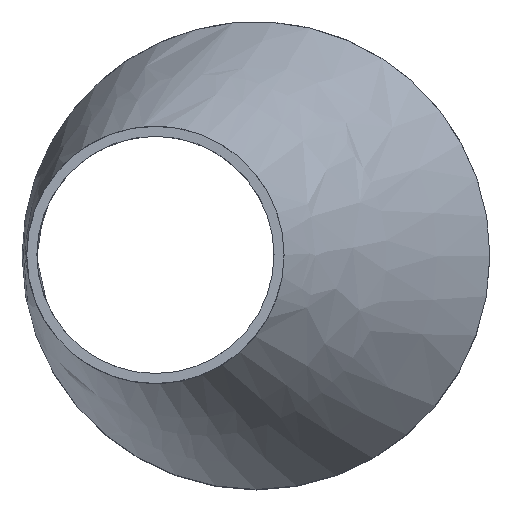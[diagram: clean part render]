
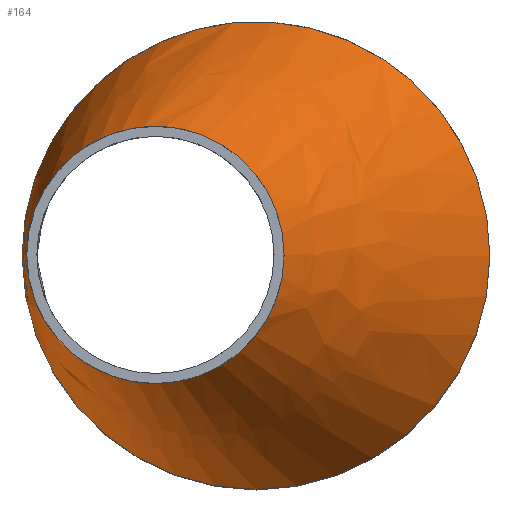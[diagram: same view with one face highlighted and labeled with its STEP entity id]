
A CAD part, top view. The second image highlights one B-rep face of the part: STEP entity #164.
In plain terms, the highlighted free-form (B-spline) face has degree [1, 2] with [2, 9] control points.
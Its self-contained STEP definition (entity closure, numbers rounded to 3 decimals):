
#15=B_SPLINE_CURVE_WITH_KNOTS($,1,(#316,#317),.UNSPECIFIED.,.F.,.F.,(2,
2),(-1.399,0.),.UNSPECIFIED.);
#17=(
BOUNDED_SURFACE()
B_SPLINE_SURFACE(1,2,((#294,#295,#296,#297,#298,#299,#300,#301,#302),(#303,
#304,#305,#306,#307,#308,#309,#310,#311)),.UNSPECIFIED.,.F.,.T.,.F.)
B_SPLINE_SURFACE_WITH_KNOTS((2,2),(3,2,2,2,3),(-0.341,1.556),
(-3.142,-1.571,0.,1.571,3.142),
 .UNSPECIFIED.)
GEOMETRIC_REPRESENTATION_ITEM()
RATIONAL_B_SPLINE_SURFACE(((1.,0.707,1.,0.707,1.,
0.707,1.,0.707,1.),(1.,0.707,1.,0.707,
1.,0.707,1.,0.707,1.)))
REPRESENTATION_ITEM($)
SURFACE()
);
#40=FACE_OUTER_BOUND($,#54,.T.);
#54=EDGE_LOOP($,(#129,#130,#131,#132,#133,#134));
#66=CIRCLE($,#178,100.);
#67=CIRCLE($,#179,100.);
#74=CIRCLE($,#188,55.);
#75=CIRCLE($,#189,55.);
#81=VERTEX_POINT($,#256);
#82=VERTEX_POINT($,#257);
#89=VERTEX_POINT($,#312);
#90=VERTEX_POINT($,#313);
#96=EDGE_CURVE($,#81,#82,#66,.T.);
#97=EDGE_CURVE($,#82,#81,#67,.T.);
#105=EDGE_CURVE($,#89,#90,#74,.T.);
#106=EDGE_CURVE($,#90,#89,#75,.T.);
#107=EDGE_CURVE($,#90,#82,#15,.T.);
#129=ORIENTED_EDGE($,*,*,#105,.F.);
#130=ORIENTED_EDGE($,*,*,#106,.F.);
#131=ORIENTED_EDGE($,*,*,#107,.T.);
#132=ORIENTED_EDGE($,*,*,#96,.F.);
#133=ORIENTED_EDGE($,*,*,#97,.F.);
#134=ORIENTED_EDGE($,*,*,#107,.F.);
#164=ADVANCED_FACE($,(#40),#17,.F.);
#178=AXIS2_PLACEMENT_3D($,#258,#210,#211);
#179=AXIS2_PLACEMENT_3D($,#259,#212,#213);
#188=AXIS2_PLACEMENT_3D($,#314,#230,#231);
#189=AXIS2_PLACEMENT_3D($,#315,#232,#233);
#210=DIRECTION('center_axis',(0.,0.,-1.));
#211=DIRECTION('ref_axis',(-1.,0.,0.));
#212=DIRECTION('center_axis',(0.,0.,-1.));
#213=DIRECTION('ref_axis',(-1.,0.,0.));
#230=DIRECTION('center_axis',(0.,0.,1.));
#231=DIRECTION('ref_axis',(-1.,0.,0.));
#232=DIRECTION('center_axis',(0.,0.,1.));
#233=DIRECTION('ref_axis',(-1.,0.,0.));
#256=CARTESIAN_POINT('',(100.,0.,115.));
#257=CARTESIAN_POINT('',(-9.893,99.509,115.));
#258=CARTESIAN_POINT('Origin',(0.,0.,115.));
#259=CARTESIAN_POINT('Origin',(0.,0.,115.));
#294=CARTESIAN_POINT('Ctrl Pts',(-0.488,110.435,84.257));
#295=CARTESIAN_POINT('Ctrl Pts',(-100.976,110.435,53.514));
#296=CARTESIAN_POINT('Ctrl Pts',(-100.976,0.,
53.514));
#297=CARTESIAN_POINT('Ctrl Pts',(-100.976,-110.435,53.514));
#298=CARTESIAN_POINT('Ctrl Pts',(-0.488,-110.435,84.257));
#299=CARTESIAN_POINT('Ctrl Pts',(100.,-110.435,115.));
#300=CARTESIAN_POINT('Ctrl Pts',(100.,0.,115.));
#301=CARTESIAN_POINT('Ctrl Pts',(100.,110.435,115.));
#302=CARTESIAN_POINT('Ctrl Pts',(-0.488,110.435,84.257));
#303=CARTESIAN_POINT('Ctrl Pts',(-52.787,49.682,255.204));
#304=CARTESIAN_POINT('Ctrl Pts',(-97.994,49.682,241.374));
#305=CARTESIAN_POINT('Ctrl Pts',(-97.994,0.,
241.374));
#306=CARTESIAN_POINT('Ctrl Pts',(-97.994,-49.682,241.374));
#307=CARTESIAN_POINT('Ctrl Pts',(-52.787,-49.682,255.204));
#308=CARTESIAN_POINT('Ctrl Pts',(-7.58,-49.682,269.035));
#309=CARTESIAN_POINT('Ctrl Pts',(-7.58,0.,
269.035));
#310=CARTESIAN_POINT('Ctrl Pts',(-7.58,49.682,269.035));
#311=CARTESIAN_POINT('Ctrl Pts',(-52.787,49.682,255.204));
#312=CARTESIAN_POINT('',(12.,0.,241.));
#313=CARTESIAN_POINT('',(-48.441,54.73,241.));
#314=CARTESIAN_POINT('Origin',(-43.,0.,241.));
#315=CARTESIAN_POINT('Origin',(-43.,0.,241.));
#316=CARTESIAN_POINT('Ctrl Pts',(-48.441,54.73,241.));
#317=CARTESIAN_POINT('Ctrl Pts',(-9.893,99.509,115.));
